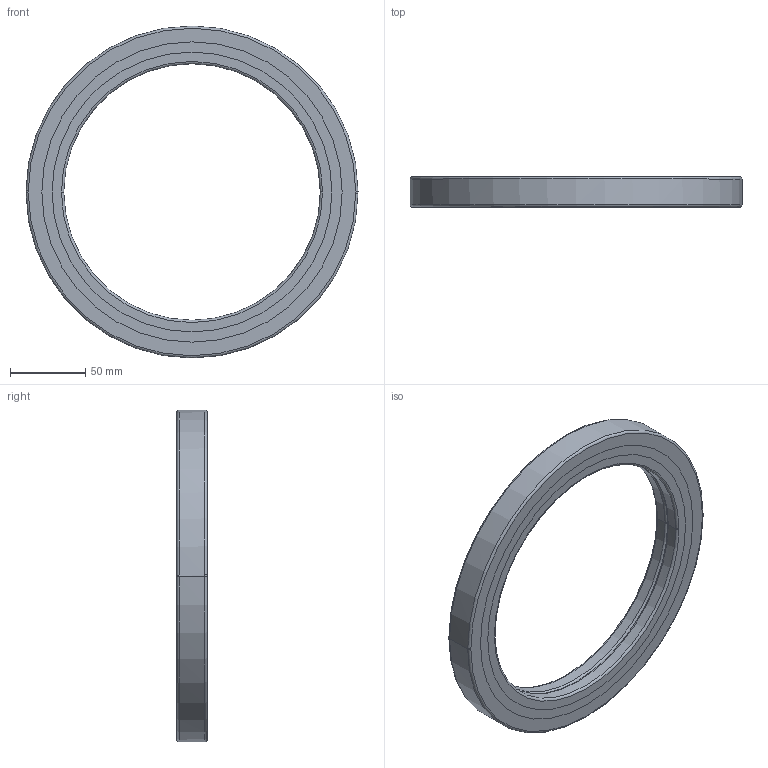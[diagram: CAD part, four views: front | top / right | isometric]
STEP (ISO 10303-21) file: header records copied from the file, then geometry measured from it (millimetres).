
FILE_DESCRIPTION(('no description'),'unknown implementation level');
FILE_NAME('CRBB17020_72.stp',' ',('HIWIN GmbH'),('CADClick - KiM GmbH - www.kimweb.de'),'unknown preprocess','ACIS','unknown authorization');
FILE_SCHEMA(('automotive_design'));
Length unit declared in the file: millimetre
Products named in the file (5): CRBB17020_1; CRBB17020_2; CRBB17020_3; CRBB17020_4; CRBB17020
Bounding box: 220 x 20 x 220 mm (x, y, z)
Volume: 236856.3 mm3; surface area: 98060 mm2
Topology: 5 solids, 5 shells, 54 faces, 120 edges, 76 vertices
Faces by surface type: torus 24, cylinder 20, plane 10
Entity records: 3096 total; most frequent: DIRECTION 338, STYLED_ITEM 255, PRESENTATION_STYLE_ASSIGNMENT 255, CARTESIAN_POINT 255, COLOUR_RGB 255, ORIENTED_EDGE 240, AXIS2_PLACEMENT_3D 159, EDGE_CURVE 120
